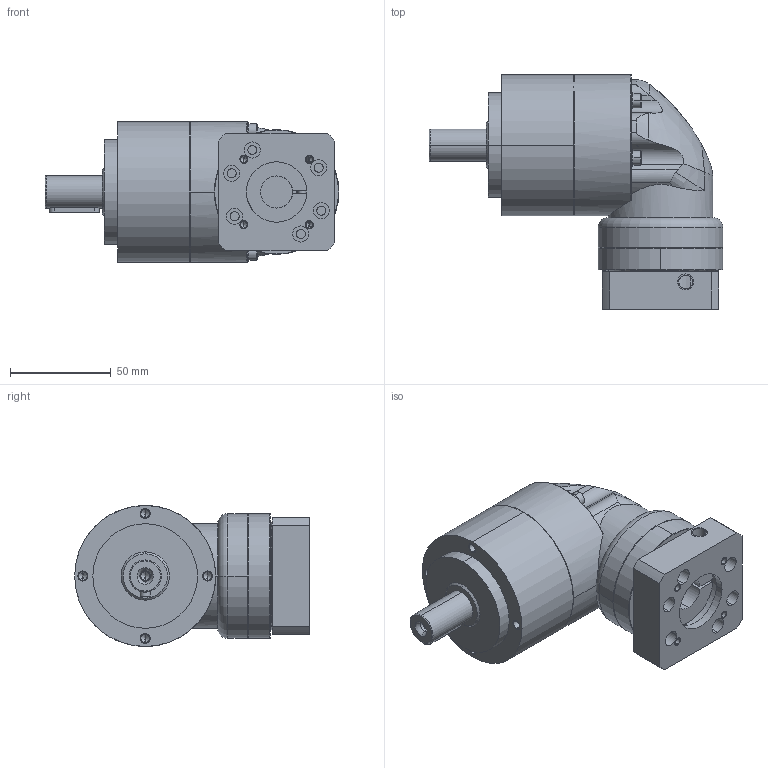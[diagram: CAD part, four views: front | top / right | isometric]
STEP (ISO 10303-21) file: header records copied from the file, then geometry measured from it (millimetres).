
FILE_DESCRIPTION((''),'2;1');
FILE_NAME('AER0701-P0403202201_ASM','2024-05-02T',('Administrator'),(''),'PRO/ENGINEER BY PARAMETRIC TECHNOLOGY CORPORATION, 2015240','PRO/ENGINEER BY PARAMETRIC TECHNOLOGY CORPORATION, 2015240','');
FILE_SCHEMA(('CONFIG_CONTROL_DESIGN'));
Length unit declared in the file: millimetre
Products named in the file (7): P1305200001_D; P1052200001_D; AE070; AB-INPUTSHAFT-2; AER0701_ASM; P0403202201-0021; AER0701-P0403202201_ASM
Assembly tree (6 placements, depth 3):
  AER0701-P0403202201_ASM
    AER0701_ASM
      P1305200001_D
      P1052200001_D
      AE070
      AB-INPUTSHAFT-2
    P0403202201-0021
Bounding box: 146 x 116.5 x 70 mm (x, y, z)
Volume: 442015.2 mm3; surface area: 77425.6 mm2
Topology: 7 solids, 17 shells, 286 faces, 688 edges, 434 vertices
Faces by surface type: cylinder 144, plane 70, cone 42, bspline 19, torus 11
Entity records: 9452 total; most frequent: CARTESIAN_POINT 2578, DIRECTION 1512, ORIENTED_EDGE 1296, EDGE_CURVE 668, AXIS2_PLACEMENT_3D 639, VERTEX_POINT 434, CIRCLE 351, EDGE_LOOP 346
